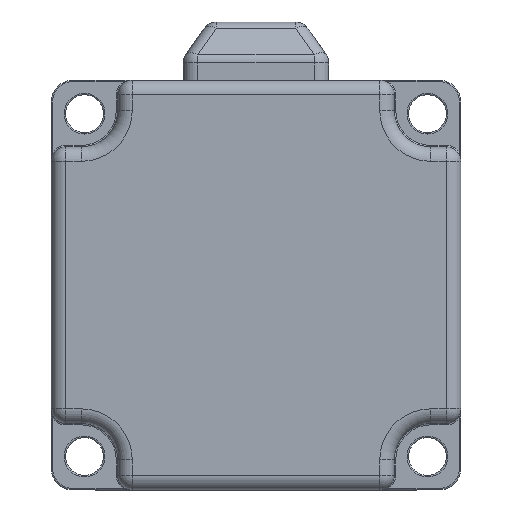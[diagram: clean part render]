
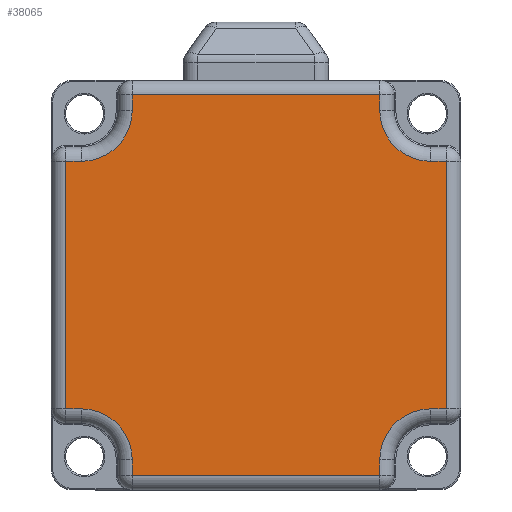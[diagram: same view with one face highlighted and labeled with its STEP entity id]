
A CAD part, front view. The second image highlights one B-rep face of the part: STEP entity #38065.
In plain terms, the highlighted planar face has unit normal (0, -1, 0).
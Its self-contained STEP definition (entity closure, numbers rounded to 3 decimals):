
#1812 = DIRECTION ( 'NONE',  ( 0., 1., 0. ) ) ;
#2228 = VERTEX_POINT ( 'NONE', #105761 ) ;
#2633 = LINE ( 'NONE', #40005, #8623 ) ;
#4114 = LINE ( 'NONE', #22528, #4931 ) ;
#4918 = CARTESIAN_POINT ( 'NONE',  ( -26.15, -20., -17. ) ) ;
#4931 = VECTOR ( 'NONE', #96001, 1000. ) ;
#6686 = VERTEX_POINT ( 'NONE', #40791 ) ;
#7736 = VERTEX_POINT ( 'NONE', #118567 ) ;
#8608 = EDGE_CURVE ( 'NONE', #98349, #74659, #55441, .T. ) ;
#8623 = VECTOR ( 'NONE', #69446, 1000. ) ;
#8941 = DIRECTION ( 'NONE',  ( 0., 0., 1. ) ) ;
#10038 = CARTESIAN_POINT ( 'NONE',  ( -17., -20., -26.15 ) ) ;
#12081 = LINE ( 'NONE', #113186, #35306 ) ;
#12084 = DIRECTION ( 'NONE',  ( 0., 0., -1. ) ) ;
#12285 = CIRCLE ( 'NONE', #16189, 7. ) ;
#13223 = PLANE ( 'NONE',  #102672 ) ;
#13890 = EDGE_CURVE ( 'NONE', #2228, #67352, #4114, .T. ) ;
#15655 = FACE_OUTER_BOUND ( 'NONE', #17038, .T. ) ;
#16189 = AXIS2_PLACEMENT_3D ( 'NONE', #72120, #118613, #110698 ) ;
#17038 = EDGE_LOOP ( 'NONE', ( #41324, #51681, #31895, #98103, #97324, #31242, #62890, #51117, #78414, #92653, #47534, #40583, #110165, #106416, #88809, #18943 ) ) ;
#18283 = EDGE_CURVE ( 'NONE', #113790, #2228, #116978, .T. ) ;
#18710 = CARTESIAN_POINT ( 'NONE',  ( -24., -20., 17. ) ) ;
#18943 = ORIENTED_EDGE ( 'NONE', *, *, #99876, .T. ) ;
#21765 = EDGE_CURVE ( 'NONE', #64757, #101962, #29791, .T. ) ;
#22528 = CARTESIAN_POINT ( 'NONE',  ( 26.15, -20., 0. ) ) ;
#23046 = VERTEX_POINT ( 'NONE', #18710 ) ;
#23649 = EDGE_CURVE ( 'NONE', #25718, #23046, #99165, .T. ) ;
#25169 = LINE ( 'NONE', #36175, #69719 ) ;
#25718 = VERTEX_POINT ( 'NONE', #93213 ) ;
#28603 = CARTESIAN_POINT ( 'NONE',  ( -26.15, -20., -19. ) ) ;
#29387 = DIRECTION ( 'NONE',  ( 0., 0., -1. ) ) ;
#29397 = CARTESIAN_POINT ( 'NONE',  ( -28.15, -20., 17. ) ) ;
#29791 = LINE ( 'NONE', #28603, #107201 ) ;
#31242 = ORIENTED_EDGE ( 'NONE', *, *, #13890, .T. ) ;
#31278 = VERTEX_POINT ( 'NONE', #84337 ) ;
#31895 = ORIENTED_EDGE ( 'NONE', *, *, #50708, .T. ) ;
#32250 = EDGE_CURVE ( 'NONE', #31278, #80869, #84123, .T. ) ;
#32697 = VERTEX_POINT ( 'NONE', #35275 ) ;
#35275 = CARTESIAN_POINT ( 'NONE',  ( 24., -20., 17. ) ) ;
#35306 = VECTOR ( 'NONE', #86835, 1000. ) ;
#36175 = CARTESIAN_POINT ( 'NONE',  ( 0., -20., 17. ) ) ;
#37634 = VECTOR ( 'NONE', #40037, 1000. ) ;
#38065 = ADVANCED_FACE ( 'NONE', ( #15655 ), #13223, .T. ) ;
#39777 = DIRECTION ( 'NONE',  ( -1., 0., 0. ) ) ;
#40005 = CARTESIAN_POINT ( 'NONE',  ( 0., -20., 26.15 ) ) ;
#40037 = DIRECTION ( 'NONE',  ( 1., 0., 0. ) ) ;
#40583 = ORIENTED_EDGE ( 'NONE', *, *, #23649, .T. ) ;
#40791 = CARTESIAN_POINT ( 'NONE',  ( 17., -20., -24. ) ) ;
#41324 = ORIENTED_EDGE ( 'NONE', *, *, #32250, .T. ) ;
#41378 = DIRECTION ( 'NONE',  ( 0., 0., -1. ) ) ;
#45516 = CIRCLE ( 'NONE', #69002, 7. ) ;
#46356 = AXIS2_PLACEMENT_3D ( 'NONE', #58111, #1812, #29387 ) ;
#46957 = DIRECTION ( 'NONE',  ( 0., 0., -1. ) ) ;
#47144 = LINE ( 'NONE', #29397, #59972 ) ;
#47375 = EDGE_CURVE ( 'NONE', #74659, #85842, #2633, .T. ) ;
#47534 = ORIENTED_EDGE ( 'NONE', *, *, #70791, .T. ) ;
#49796 = CARTESIAN_POINT ( 'NONE',  ( 0., -20., -17. ) ) ;
#50708 = EDGE_CURVE ( 'NONE', #7736, #6686, #12081, .T. ) ;
#51117 = ORIENTED_EDGE ( 'NONE', *, *, #107374, .T. ) ;
#51137 = DIRECTION ( 'NONE',  ( 0., -1., 0. ) ) ;
#51596 = LINE ( 'NONE', #49796, #37634 ) ;
#51681 = ORIENTED_EDGE ( 'NONE', *, *, #62409, .T. ) ;
#54511 = DIRECTION ( 'NONE',  ( -1., 0., 0. ) ) ;
#55441 = LINE ( 'NONE', #92846, #70302 ) ;
#57887 = CARTESIAN_POINT ( 'NONE',  ( 17., -20., 26.15 ) ) ;
#58111 = CARTESIAN_POINT ( 'NONE',  ( -24., -20., 24. ) ) ;
#59972 = VECTOR ( 'NONE', #39777, 1000. ) ;
#60049 = DIRECTION ( 'NONE',  ( 1., 0., 0. ) ) ;
#61690 = DIRECTION ( 'NONE',  ( 0., 0., -1. ) ) ;
#62409 = EDGE_CURVE ( 'NONE', #80869, #7736, #68333, .T. ) ;
#62890 = ORIENTED_EDGE ( 'NONE', *, *, #83056, .T. ) ;
#64757 = VERTEX_POINT ( 'NONE', #105529 ) ;
#66672 = VECTOR ( 'NONE', #12084, 1000. ) ;
#67352 = VERTEX_POINT ( 'NONE', #87006 ) ;
#68333 = LINE ( 'NONE', #104485, #68943 ) ;
#68653 = EDGE_CURVE ( 'NONE', #101962, #83201, #51596, .T. ) ;
#68738 = CARTESIAN_POINT ( 'NONE',  ( 24., -20., -17. ) ) ;
#68943 = VECTOR ( 'NONE', #85475, 1000. ) ;
#69002 = AXIS2_PLACEMENT_3D ( 'NONE', #99653, #107688, #61690 ) ;
#69107 = CARTESIAN_POINT ( 'NONE',  ( -17., -20., 0. ) ) ;
#69446 = DIRECTION ( 'NONE',  ( -1., 0., 0. ) ) ;
#69719 = VECTOR ( 'NONE', #54511, 1000. ) ;
#70302 = VECTOR ( 'NONE', #8941, 1000. ) ;
#70791 = EDGE_CURVE ( 'NONE', #85842, #25718, #87445, .T. ) ;
#71576 = CARTESIAN_POINT ( 'NONE',  ( 17., -20., 24. ) ) ;
#72120 = CARTESIAN_POINT ( 'NONE',  ( -24., -20., -24. ) ) ;
#74659 = VERTEX_POINT ( 'NONE', #57887 ) ;
#76537 = CARTESIAN_POINT ( 'NONE',  ( -17., -20., 26.15 ) ) ;
#77537 = DIRECTION ( 'NONE',  ( 0., 1., 0. ) ) ;
#78414 = ORIENTED_EDGE ( 'NONE', *, *, #8608, .T. ) ;
#79615 = EDGE_CURVE ( 'NONE', #6686, #113790, #45516, .T. ) ;
#80869 = VERTEX_POINT ( 'NONE', #10038 ) ;
#83056 = EDGE_CURVE ( 'NONE', #67352, #32697, #25169, .T. ) ;
#83197 = EDGE_CURVE ( 'NONE', #23046, #64757, #47144, .T. ) ;
#83201 = VERTEX_POINT ( 'NONE', #102976 ) ;
#83883 = CIRCLE ( 'NONE', #115150, 7. ) ;
#84123 = LINE ( 'NONE', #111097, #86816 ) ;
#84337 = CARTESIAN_POINT ( 'NONE',  ( -17., -20., -24. ) ) ;
#85475 = DIRECTION ( 'NONE',  ( 1., 0., 0. ) ) ;
#85842 = VERTEX_POINT ( 'NONE', #76537 ) ;
#86816 = VECTOR ( 'NONE', #102534, 1000. ) ;
#86835 = DIRECTION ( 'NONE',  ( 0., 0., 1. ) ) ;
#87006 = CARTESIAN_POINT ( 'NONE',  ( 26.15, -20., 17. ) ) ;
#87445 = LINE ( 'NONE', #69107, #66672 ) ;
#88809 = ORIENTED_EDGE ( 'NONE', *, *, #68653, .T. ) ;
#92653 = ORIENTED_EDGE ( 'NONE', *, *, #47375, .T. ) ;
#92846 = CARTESIAN_POINT ( 'NONE',  ( 17., -20., 28.15 ) ) ;
#93213 = CARTESIAN_POINT ( 'NONE',  ( -17., -20., 24. ) ) ;
#95842 = CARTESIAN_POINT ( 'NONE',  ( 24., -20., 24. ) ) ;
#96001 = DIRECTION ( 'NONE',  ( 0., 0., 1. ) ) ;
#97324 = ORIENTED_EDGE ( 'NONE', *, *, #18283, .T. ) ;
#97673 = DIRECTION ( 'NONE',  ( 0., 0., -1. ) ) ;
#98103 = ORIENTED_EDGE ( 'NONE', *, *, #79615, .T. ) ;
#98349 = VERTEX_POINT ( 'NONE', #71576 ) ;
#99165 = CIRCLE ( 'NONE', #46356, 7. ) ;
#99577 = CARTESIAN_POINT ( 'NONE',  ( 0., -20., 0. ) ) ;
#99653 = CARTESIAN_POINT ( 'NONE',  ( 24., -20., -24. ) ) ;
#99876 = EDGE_CURVE ( 'NONE', #83201, #31278, #12285, .T. ) ;
#101962 = VERTEX_POINT ( 'NONE', #4918 ) ;
#102252 = VECTOR ( 'NONE', #60049, 1000. ) ;
#102534 = DIRECTION ( 'NONE',  ( 0., 0., -1. ) ) ;
#102672 = AXIS2_PLACEMENT_3D ( 'NONE', #99577, #51137, #41378 ) ;
#102976 = CARTESIAN_POINT ( 'NONE',  ( -24., -20., -17. ) ) ;
#104485 = CARTESIAN_POINT ( 'NONE',  ( 19., -20., -26.15 ) ) ;
#105529 = CARTESIAN_POINT ( 'NONE',  ( -26.15, -20., 17. ) ) ;
#105761 = CARTESIAN_POINT ( 'NONE',  ( 26.15, -20., -17. ) ) ;
#106416 = ORIENTED_EDGE ( 'NONE', *, *, #21765, .T. ) ;
#107201 = VECTOR ( 'NONE', #46957, 1000. ) ;
#107374 = EDGE_CURVE ( 'NONE', #32697, #98349, #83883, .T. ) ;
#107688 = DIRECTION ( 'NONE',  ( 0., 1., 0. ) ) ;
#110165 = ORIENTED_EDGE ( 'NONE', *, *, #83197, .T. ) ;
#110698 = DIRECTION ( 'NONE',  ( 0., 0., -1. ) ) ;
#111097 = CARTESIAN_POINT ( 'NONE',  ( -17., -20., -28.15 ) ) ;
#113186 = CARTESIAN_POINT ( 'NONE',  ( 17., -20., 0. ) ) ;
#113790 = VERTEX_POINT ( 'NONE', #68738 ) ;
#115150 = AXIS2_PLACEMENT_3D ( 'NONE', #95842, #77537, #97673 ) ;
#115194 = CARTESIAN_POINT ( 'NONE',  ( 28.15, -20., -17. ) ) ;
#116978 = LINE ( 'NONE', #115194, #102252 ) ;
#118567 = CARTESIAN_POINT ( 'NONE',  ( 17., -20., -26.15 ) ) ;
#118613 = DIRECTION ( 'NONE',  ( 0., 1., 0. ) ) ;
